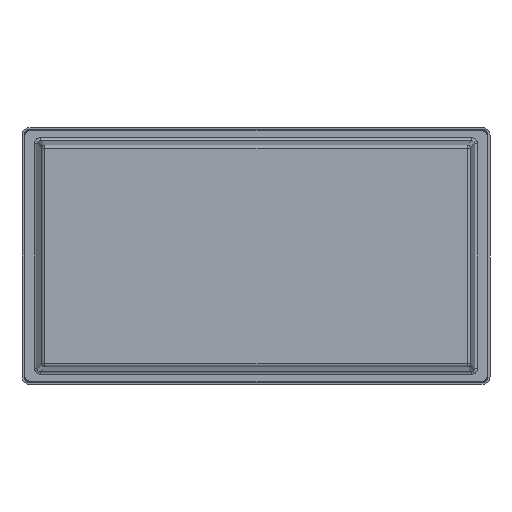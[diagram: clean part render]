
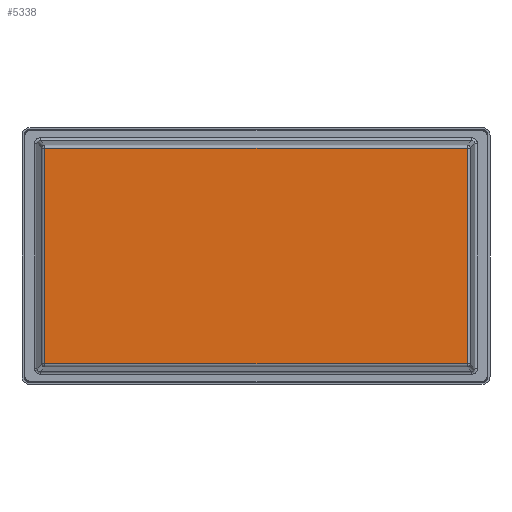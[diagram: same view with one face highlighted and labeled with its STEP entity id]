
A CAD part, front view. The second image highlights one B-rep face of the part: STEP entity #5338.
In plain terms, the highlighted planar face has unit normal (0, -1, 0).
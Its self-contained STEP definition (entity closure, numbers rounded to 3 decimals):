
#133 = ORIENTED_EDGE ( 'NONE', *, *, #1625, .T. ) ;
#134 = ORIENTED_EDGE ( 'NONE', *, *, #2975, .T. ) ;
#135 = ORIENTED_EDGE ( 'NONE', *, *, #2912, .T. ) ;
#136 = ORIENTED_EDGE ( 'NONE', *, *, #2913, .T. ) ;
#1281 = CARTESIAN_POINT ( 'NONE',  ( -715.343, 0., 375. ) ) ;
#1282 = DIRECTION ( 'NONE',  ( 0., 0., -1. ) ) ;
#1283 = CARTESIAN_POINT ( 'NONE',  ( -725., 0., -365.343 ) ) ;
#1284 = DIRECTION ( 'NONE',  ( 1., 0., 0. ) ) ;
#1391 = EDGE_LOOP ( 'NONE', ( #133, #134, #135, #136 ) ) ;
#1625 = EDGE_CURVE ( 'NONE', #3124, #3125, #4798, .T. ) ;
#2912 = EDGE_CURVE ( 'NONE', #3079, #3080, #4972, .T. ) ;
#2913 = EDGE_CURVE ( 'NONE', #3080, #3124, #4974, .T. ) ;
#2975 = EDGE_CURVE ( 'NONE', #3125, #3079, #5054, .T. ) ;
#3079 = VERTEX_POINT ( 'NONE', #6864 ) ;
#3080 = VERTEX_POINT ( 'NONE', #6869 ) ;
#3124 = VERTEX_POINT ( 'NONE', #6926 ) ;
#3125 = VERTEX_POINT ( 'NONE', #6927 ) ;
#3760 = AXIS2_PLACEMENT_3D ( 'NONE', #8043, #8047, #8048 ) ;
#4798 = LINE ( 'NONE', #7529, #4800 ) ;
#4800 = VECTOR ( 'NONE', #7548, 1000. ) ;
#4972 = LINE ( 'NONE', #1281, #4975 ) ;
#4974 = LINE ( 'NONE', #1283, #4977 ) ;
#4975 = VECTOR ( 'NONE', #1282, 1000. ) ;
#4977 = VECTOR ( 'NONE', #1284, 1000. ) ;
#5054 = LINE ( 'NONE', #6771, #5057 ) ;
#5057 = VECTOR ( 'NONE', #6772, 1000. ) ;
#5338 = ADVANCED_FACE ( 'NONE', ( #6225 ), #8045, .F. ) ;
#6225 = FACE_OUTER_BOUND ( 'NONE', #1391, .T. ) ;
#6771 = CARTESIAN_POINT ( 'NONE',  ( -725., 0., 365.343 ) ) ;
#6772 = DIRECTION ( 'NONE',  ( -1., 0., 0. ) ) ;
#6864 = CARTESIAN_POINT ( 'NONE',  ( -715.343, 0., 365.343 ) ) ;
#6869 = CARTESIAN_POINT ( 'NONE',  ( -715.343, 0., -365.343 ) ) ;
#6926 = CARTESIAN_POINT ( 'NONE',  ( 715.343, 0., -365.343 ) ) ;
#6927 = CARTESIAN_POINT ( 'NONE',  ( 715.343, 0., 365.343 ) ) ;
#7529 = CARTESIAN_POINT ( 'NONE',  ( 715.343, 0., 375. ) ) ;
#7548 = DIRECTION ( 'NONE',  ( 0., 0., 1. ) ) ;
#8043 = CARTESIAN_POINT ( 'NONE',  ( -725., 0., 375. ) ) ;
#8045 = PLANE ( 'NONE',  #3760 ) ;
#8047 = DIRECTION ( 'NONE',  ( 0., 1., 0. ) ) ;
#8048 = DIRECTION ( 'NONE',  ( 1., 0., 0. ) ) ;
